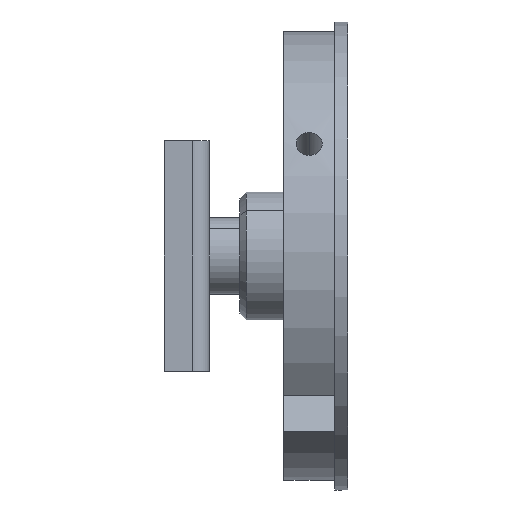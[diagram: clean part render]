
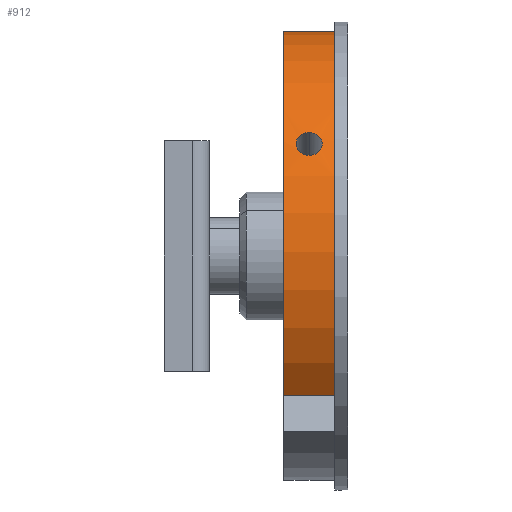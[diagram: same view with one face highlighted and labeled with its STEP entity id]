
A CAD part, left-side view. The second image highlights one B-rep face of the part: STEP entity #912.
In plain terms, the highlighted cylindrical face has radius 17.5 mm (diameter 35 mm), a partial arc.
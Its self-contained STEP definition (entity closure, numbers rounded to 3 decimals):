
#192 = CARTESIAN_POINT ( 'NONE',  ( -15.63, 2.734, 7.871 ) ) ;
#210 = CARTESIAN_POINT ( 'NONE',  ( -15.088, 4.028, 8.866 ) ) ;
#318 = EDGE_LOOP ( 'NONE', ( #5867, #7330 ) ) ;
#359 = CARTESIAN_POINT ( 'NONE',  ( 0., 1.003, 17.5 ) ) ;
#510 = CARTESIAN_POINT ( 'NONE',  ( -15.549, 3.632, 8.03 ) ) ;
#540 = EDGE_LOOP ( 'NONE', ( #4250, #7401, #3957, #6785 ) ) ;
#573 = CARTESIAN_POINT ( 'NONE',  ( -15.642, 3.003, 7.847 ) ) ;
#641 = CARTESIAN_POINT ( 'NONE',  ( -14.617, 3.003, 9.623 ) ) ;
#759 = VERTEX_POINT ( 'NONE', #9090 ) ;
#912 = ADVANCED_FACE ( 'NONE', ( #11269, #3335 ), #6069, .T. ) ;
#941 = CARTESIAN_POINT ( 'NONE',  ( -15.549, 2.373, 8.031 ) ) ;
#1020 = CARTESIAN_POINT ( 'NONE',  ( -14.632, 3.271, 9.6 ) ) ;
#1073 = EDGE_CURVE ( 'NONE', #1114, #9022, #10884, .T. ) ;
#1114 = VERTEX_POINT ( 'NONE', #359 ) ;
#1243 = CARTESIAN_POINT ( 'NONE',  ( -15.583, 3.519, 7.963 ) ) ;
#1422 = CARTESIAN_POINT ( 'NONE',  ( 0., 29.289, 0. ) ) ;
#1704 = B_SPLINE_CURVE_WITH_KNOTS ( 'NONE', 3,
 ( #1822, #5452, #192, #10891, #941, #4534, #8185, #3622, #7431, #6240, #9829, #4716, #3124, #9462, #2053, #641 ),
 .UNSPECIFIED., .F., .F.,
 ( 4, 2, 2, 2, 2, 2, 2, 4 ),
 ( 0.003, 0.004, 0.004, 0.004, 0.005, 0.005, 0.006, 0.006 ),
 .UNSPECIFIED. ) ;
#1822 = CARTESIAN_POINT ( 'NONE',  ( -15.642, 3.003, 7.847 ) ) ;
#1825 = LINE ( 'NONE', #9072, #6037 ) ;
#2011 = CARTESIAN_POINT ( 'NONE',  ( -15.288, 4.001, 8.517 ) ) ;
#2053 = CARTESIAN_POINT ( 'NONE',  ( -14.617, 2.732, 9.623 ) ) ;
#2313 = CARTESIAN_POINT ( 'NONE',  ( 0., 1.003, 0. ) ) ;
#2719 = CARTESIAN_POINT ( 'NONE',  ( 0., 5.003, 17.5 ) ) ;
#2753 = CARTESIAN_POINT ( 'NONE',  ( -14.617, 3.138, 9.623 ) ) ;
#3124 = CARTESIAN_POINT ( 'NONE',  ( -14.831, 2.183, 9.29 ) ) ;
#3335 = FACE_OUTER_BOUND ( 'NONE', #540, .T. ) ;
#3601 = DIRECTION ( 'NONE',  ( 0., 0., 1. ) ) ;
#3622 = CARTESIAN_POINT ( 'NONE',  ( -15.289, 2.005, 8.516 ) ) ;
#3753 = CARTESIAN_POINT ( 'NONE',  ( -15.222, 4.028, 8.634 ) ) ;
#3824 = CARTESIAN_POINT ( 'NONE',  ( -15.642, 3.137, 7.847 ) ) ;
#3957 = ORIENTED_EDGE ( 'NONE', *, *, #4922, .F. ) ;
#4228 = CARTESIAN_POINT ( 'NONE',  ( 0., 5.003, 0. ) ) ;
#4250 = ORIENTED_EDGE ( 'NONE', *, *, #11137, .T. ) ;
#4534 = CARTESIAN_POINT ( 'NONE',  ( -15.461, 2.184, 8.198 ) ) ;
#4623 = CARTESIAN_POINT ( 'NONE',  ( -14.729, 3.633, 9.45 ) ) ;
#4716 = CARTESIAN_POINT ( 'NONE',  ( -14.891, 2.107, 9.193 ) ) ;
#4800 = CARTESIAN_POINT ( 'NONE',  ( -13.708, 5.003, -10.879 ) ) ;
#4922 = EDGE_CURVE ( 'NONE', #6146, #9022, #7211, .T. ) ;
#5049 = DIRECTION ( 'NONE',  ( 0., 1., 0. ) ) ;
#5328 = VECTOR ( 'NONE', #9108, 1000. ) ;
#5365 = DIRECTION ( 'NONE',  ( 0., 1., 0. ) ) ;
#5404 = AXIS2_PLACEMENT_3D ( 'NONE', #2313, #11391, #5957 ) ;
#5452 = CARTESIAN_POINT ( 'NONE',  ( -15.642, 2.869, 7.847 ) ) ;
#5481 = EDGE_CURVE ( 'NONE', #759, #9522, #7520, .T. ) ;
#5867 = ORIENTED_EDGE ( 'NONE', *, *, #5481, .F. ) ;
#5957 = DIRECTION ( 'NONE',  ( 0., 0., 1. ) ) ;
#6037 = VECTOR ( 'NONE', #9251, 1000. ) ;
#6069 = CYLINDRICAL_SURFACE ( 'NONE', #6687, 17.5 ) ;
#6146 = VERTEX_POINT ( 'NONE', #4800 ) ;
#6240 = CARTESIAN_POINT ( 'NONE',  ( -15.088, 1.978, 8.866 ) ) ;
#6399 = CARTESIAN_POINT ( 'NONE',  ( 0., 29.289, 17.5 ) ) ;
#6435 = AXIS2_PLACEMENT_3D ( 'NONE', #4228, #5365, #3601 ) ;
#6627 = CARTESIAN_POINT ( 'NONE',  ( -15.63, 3.271, 7.871 ) ) ;
#6687 = AXIS2_PLACEMENT_3D ( 'NONE', #1422, #5049, #6800 ) ;
#6732 = VERTEX_POINT ( 'NONE', #9027 ) ;
#6785 = ORIENTED_EDGE ( 'NONE', *, *, #6970, .F. ) ;
#6800 = DIRECTION ( 'NONE',  ( 0., 0., 1. ) ) ;
#6970 = EDGE_CURVE ( 'NONE', #6732, #6146, #1825, .T. ) ;
#7211 = CIRCLE ( 'NONE', #6435, 17.5 ) ;
#7330 = ORIENTED_EDGE ( 'NONE', *, *, #10680, .F. ) ;
#7392 = CARTESIAN_POINT ( 'NONE',  ( -14.688, 3.519, 9.514 ) ) ;
#7401 = ORIENTED_EDGE ( 'NONE', *, *, #1073, .T. ) ;
#7431 = CARTESIAN_POINT ( 'NONE',  ( -15.223, 1.978, 8.632 ) ) ;
#7520 = B_SPLINE_CURVE_WITH_KNOTS ( 'NONE', 3,
 ( #11041, #2753, #1020, #7392, #4623, #10971, #11518, #8323, #210, #3753, #2011, #9268, #9445, #510, #1243, #6627, #3824, #8552 ),
 .UNSPECIFIED., .F., .F.,
 ( 4, 2, 2, 2, 2, 2, 2, 2, 4 ),
 ( 0., 0., 0.001, 0.001, 0.002, 0.002, 0.002, 0.003, 0.003 ),
 .UNSPECIFIED. ) ;
#8185 = CARTESIAN_POINT ( 'NONE',  ( -15.408, 2.108, 8.299 ) ) ;
#8323 = CARTESIAN_POINT ( 'NONE',  ( -15.02, 4.001, 8.982 ) ) ;
#8552 = CARTESIAN_POINT ( 'NONE',  ( -15.642, 3.003, 7.847 ) ) ;
#9022 = VERTEX_POINT ( 'NONE', #2719 ) ;
#9027 = CARTESIAN_POINT ( 'NONE',  ( -13.708, 1.003, -10.879 ) ) ;
#9072 = CARTESIAN_POINT ( 'NONE',  ( -13.708, 29.289, -10.879 ) ) ;
#9090 = CARTESIAN_POINT ( 'NONE',  ( -14.617, 3.003, 9.623 ) ) ;
#9108 = DIRECTION ( 'NONE',  ( 0., 1., 0. ) ) ;
#9251 = DIRECTION ( 'NONE',  ( 0., 1., 0. ) ) ;
#9268 = CARTESIAN_POINT ( 'NONE',  ( -15.407, 3.899, 8.3 ) ) ;
#9385 = CIRCLE ( 'NONE', #5404, 17.5 ) ;
#9445 = CARTESIAN_POINT ( 'NONE',  ( -15.46, 3.823, 8.2 ) ) ;
#9462 = CARTESIAN_POINT ( 'NONE',  ( -14.679, 2.467, 9.53 ) ) ;
#9522 = VERTEX_POINT ( 'NONE', #573 ) ;
#9829 = CARTESIAN_POINT ( 'NONE',  ( -15.02, 2.004, 8.981 ) ) ;
#10680 = EDGE_CURVE ( 'NONE', #9522, #759, #1704, .T. ) ;
#10884 = LINE ( 'NONE', #6399, #5328 ) ;
#10891 = CARTESIAN_POINT ( 'NONE',  ( -15.584, 2.487, 7.963 ) ) ;
#10971 = CARTESIAN_POINT ( 'NONE',  ( -14.831, 3.822, 9.29 ) ) ;
#11041 = CARTESIAN_POINT ( 'NONE',  ( -14.617, 3.003, 9.623 ) ) ;
#11137 = EDGE_CURVE ( 'NONE', #6732, #1114, #9385, .T. ) ;
#11269 = FACE_BOUND ( 'NONE', #318, .T. ) ;
#11391 = DIRECTION ( 'NONE',  ( 0., 1., 0. ) ) ;
#11518 = CARTESIAN_POINT ( 'NONE',  ( -14.891, 3.899, 9.193 ) ) ;
